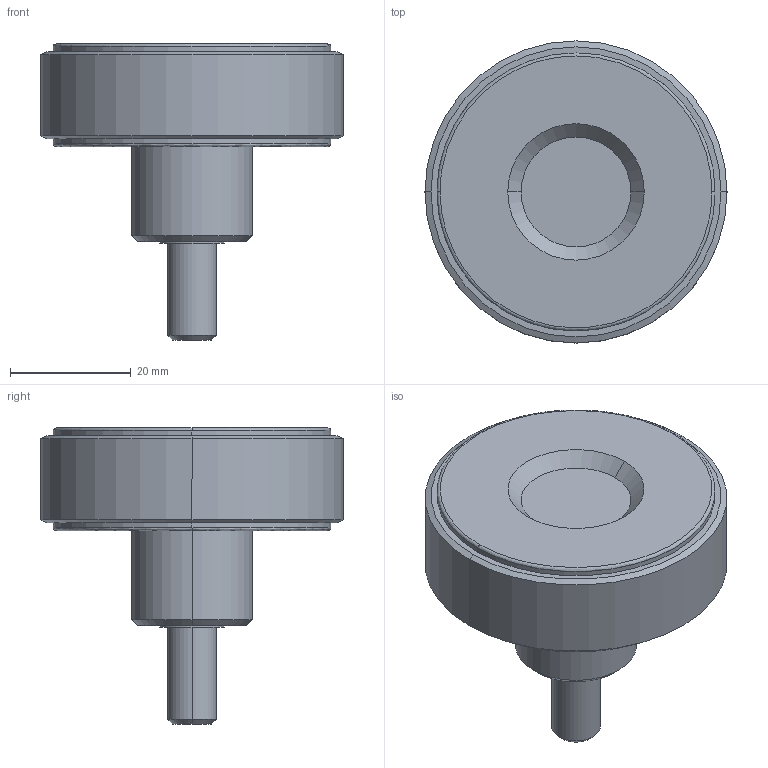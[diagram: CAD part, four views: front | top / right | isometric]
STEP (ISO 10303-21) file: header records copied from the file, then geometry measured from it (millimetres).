
FILE_DESCRIPTION (( 'STEP AP203' ), '1' );
FILE_NAME ('gk50x16n-ye.STEP', '2021-10-26T00:39:33', ( '' ), ( '' ), 'SwSTEP 2.0', 'SolidWorks 2020', '' );
FILE_SCHEMA (( 'CONFIG_CONTROL_DESIGN' ));
Length unit declared in the file: millimetre
Products named in the file (1): gk50x16n-ye
Bounding box: 50 x 50 x 49 mm (x, y, z)
Volume: 27790.1 mm3; surface area: 9826.7 mm2
Topology: 1 solids, 1 shells, 41 faces, 84 edges, 52 vertices
Faces by surface type: cylinder 14, cone 10, plane 9, bspline 8
Entity records: 1838 total; most frequent: CARTESIAN_POINT 908, DIRECTION 188, ORIENTED_EDGE 168, EDGE_CURVE 84, AXIS2_PLACEMENT_3D 82, VERTEX_POINT 52, CIRCLE 48, EDGE_LOOP 48
